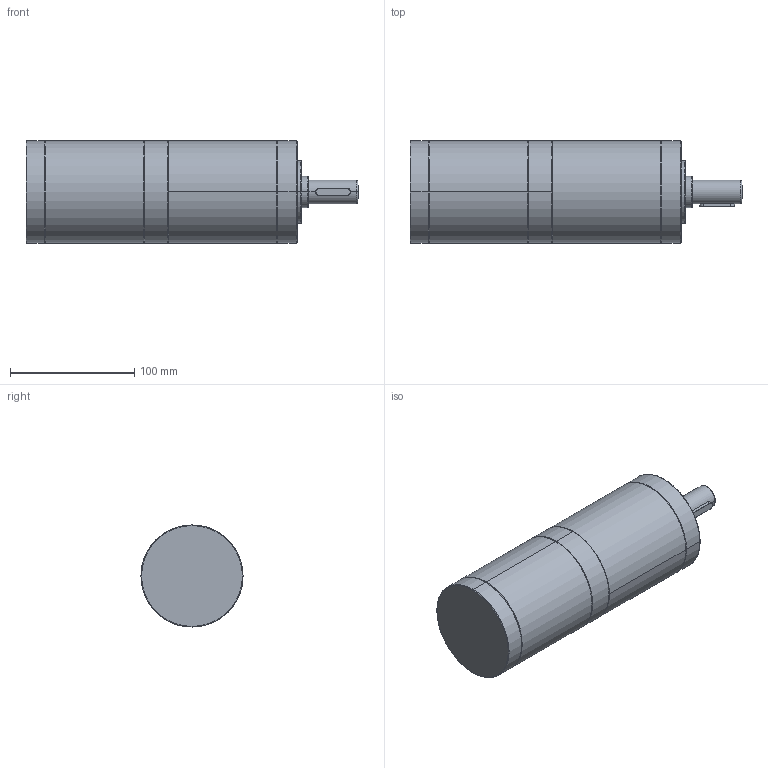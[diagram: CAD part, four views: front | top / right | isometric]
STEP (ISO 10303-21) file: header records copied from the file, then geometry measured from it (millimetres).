
FILE_DESCRIPTION (( 'STEP AP203' ), '1' );
FILE_NAME ('Z82BLDPN200W减速比三级整机.STEP', '2021-07-16T05:15:17', ( '' ), ( '' ), 'SwSTEP 2.0', 'SolidWorks 2021', '' );
FILE_SCHEMA (( 'CONFIG_CONTROL_DESIGN' ));
Length unit declared in the file: millimetre
Products named in the file (3): Z82BLDPN200W减速比三级整机; 82PN三级; 82
Assembly tree (2 placements, depth 2):
  Z82BLDPN200W减速比三级整机
    82
    82PN三级
Bounding box: 266.7 x 82 x 82 mm (x, y, z)
Volume: 1156052.2 mm3; surface area: 84270.5 mm2
Topology: 2 solids, 2 shells, 155 faces, 337 edges, 199 vertices
Faces by surface type: cylinder 50, plane 49, cone 32, bspline 20, torus 4
Entity records: 4704 total; most frequent: CARTESIAN_POINT 1106, DIRECTION 725, ORIENTED_EDGE 654, EDGE_CURVE 327, AXIS2_PLACEMENT_3D 282, VERTEX_POINT 199, EDGE_LOOP 178, LINE 161
